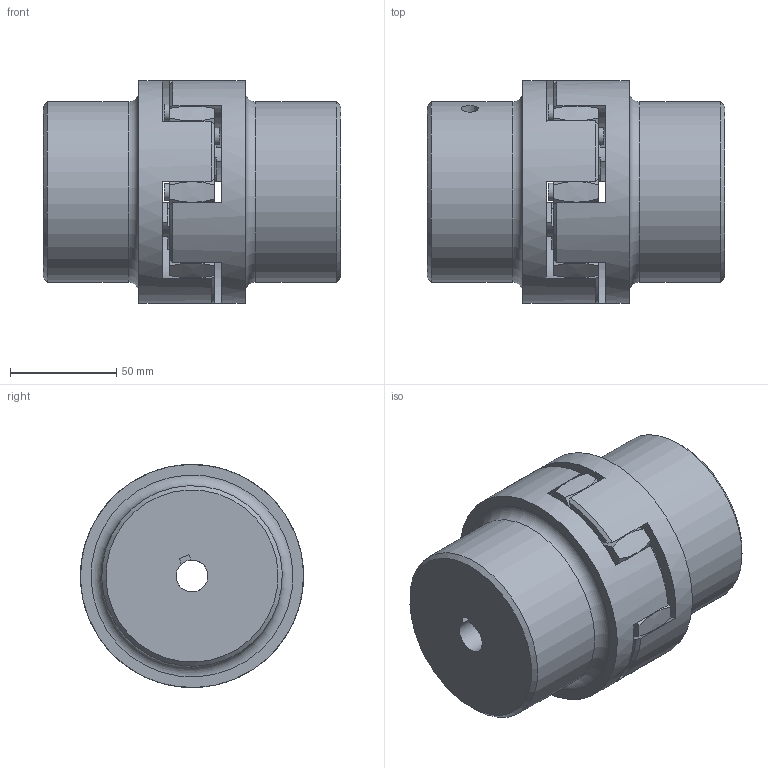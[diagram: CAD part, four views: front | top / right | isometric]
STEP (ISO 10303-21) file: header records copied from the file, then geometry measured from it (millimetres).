
FILE_DESCRIPTION(/* description */ (''),/* implementation_level */ '2;1');
FILE_NAME(/* name */ 'RP48-15-PF-15-PF',/* time_stamp */ '2024-01-05T15:30:34+01:00',/* author */ ('M. Horlacher'),/* organization */ (''),/* preprocessor_version */ 'ST-DEVELOPER v20',/* originating_system */ 'Autodesk Inventor 2024',/* authorisation */ '');
FILE_SCHEMA (('AUTOMOTIVE_DESIGN { 1 0 10303 214 3 1 1 }'));
Length unit declared in the file: millimetre
Products named in the file (4): RP STEP; RP48-Nabe_1; RP48-Nabe_1_1; RP48-Stern-92Shore
Assembly tree (3 placements, depth 2):
  RP STEP
    RP48-Nabe_1
    RP48-Nabe_1_1
    RP48-Stern-92Shore
Bounding box: 140 x 104.95 x 104.95 mm (x, y, z)
Volume: 820751.5 mm3; surface area: 109297.9 mm2
Topology: 3 solids, 3 shells, 141 faces, 369 edges, 246 vertices
Faces by surface type: cylinder 53, plane 44, bspline 32, cone 10, torus 2
Full cylindrical faces by diameter (mm): 8 x10, 51 x1, 85 x2, 105 x2
Entity records: 5819 total; most frequent: CARTESIAN_POINT 2329, ORIENTED_EDGE 738, DIRECTION 657, EDGE_CURVE 369, AXIS2_PLACEMENT_3D 278, VERTEX_POINT 246, CIRCLE 162, EDGE_LOOP 159
